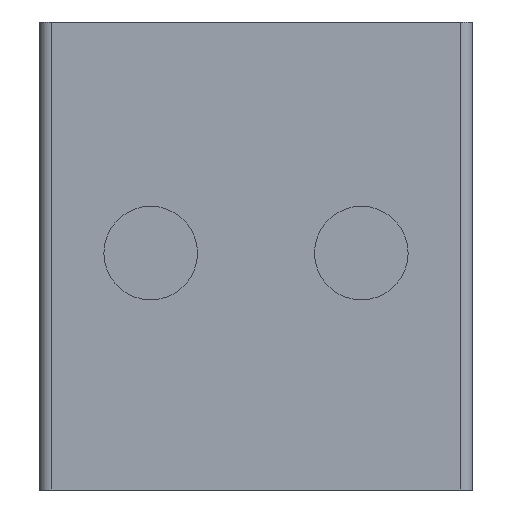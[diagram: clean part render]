
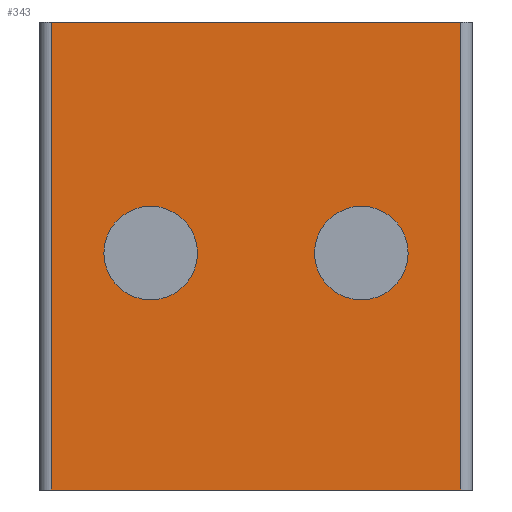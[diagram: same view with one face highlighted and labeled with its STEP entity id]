
A CAD part, front view. The second image highlights one B-rep face of the part: STEP entity #343.
In plain terms, the highlighted planar face has unit normal (0, -1, 0).
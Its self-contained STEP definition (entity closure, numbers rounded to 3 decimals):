
#4 = VERTEX_POINT ( 'NONE', #1269 ) ;
#49 = EDGE_CURVE ( 'NONE', #1171, #1609, #1753, .T. ) ;
#68 = PLANE ( 'NONE',  #1783 ) ;
#70 = VECTOR ( 'NONE', #316, 1000. ) ;
#93 = ORIENTED_EDGE ( 'NONE', *, *, #49, .T. ) ;
#171 = CARTESIAN_POINT ( 'NONE',  ( 36., 0., 0. ) ) ;
#188 = DIRECTION ( 'NONE',  ( 0., 0., -1. ) ) ;
#316 = DIRECTION ( 'NONE',  ( 0., 0., 1. ) ) ;
#343 = ADVANCED_FACE ( 'NONE', ( #782 ), #68, .T. ) ;
#555 = CARTESIAN_POINT ( 'NONE',  ( 37., 0., 0. ) ) ;
#657 = EDGE_CURVE ( 'NONE', #1208, #1171, #1297, .T. ) ;
#671 = CARTESIAN_POINT ( 'NONE',  ( 1., 0., 40. ) ) ;
#748 = ORIENTED_EDGE ( 'NONE', *, *, #657, .T. ) ;
#782 = FACE_OUTER_BOUND ( 'NONE', #815, .T. ) ;
#787 = EDGE_CURVE ( 'NONE', #4, #1208, #1759, .T. ) ;
#797 = ORIENTED_EDGE ( 'NONE', *, *, #1504, .T. ) ;
#815 = EDGE_LOOP ( 'NONE', ( #1006, #748, #93, #797 ) ) ;
#817 = DIRECTION ( 'NONE',  ( 1., 0., 0. ) ) ;
#864 = CARTESIAN_POINT ( 'NONE',  ( 37., 0., 40. ) ) ;
#939 = VECTOR ( 'NONE', #1444, 1000. ) ;
#1006 = ORIENTED_EDGE ( 'NONE', *, *, #787, .T. ) ;
#1079 = CARTESIAN_POINT ( 'NONE',  ( 1., 0., 0. ) ) ;
#1106 = VECTOR ( 'NONE', #817, 1000. ) ;
#1171 = VERTEX_POINT ( 'NONE', #1079 ) ;
#1208 = VERTEX_POINT ( 'NONE', #671 ) ;
#1269 = CARTESIAN_POINT ( 'NONE',  ( 36., 0., 40. ) ) ;
#1297 = LINE ( 'NONE', #1407, #1452 ) ;
#1339 = DIRECTION ( 'NONE',  ( 0., -1., 0. ) ) ;
#1357 = LINE ( 'NONE', #171, #70 ) ;
#1407 = CARTESIAN_POINT ( 'NONE',  ( 1., 0., 0. ) ) ;
#1444 = DIRECTION ( 'NONE',  ( -1., 0., 0. ) ) ;
#1452 = VECTOR ( 'NONE', #1529, 1000. ) ;
#1504 = EDGE_CURVE ( 'NONE', #1609, #4, #1357, .T. ) ;
#1529 = DIRECTION ( 'NONE',  ( 0., 0., -1. ) ) ;
#1603 = CARTESIAN_POINT ( 'NONE',  ( 37., 0., 0. ) ) ;
#1609 = VERTEX_POINT ( 'NONE', #1757 ) ;
#1753 = LINE ( 'NONE', #555, #1106 ) ;
#1757 = CARTESIAN_POINT ( 'NONE',  ( 36., 0., 0. ) ) ;
#1759 = LINE ( 'NONE', #864, #939 ) ;
#1783 = AXIS2_PLACEMENT_3D ( 'NONE', #1603, #1339, #188 ) ;
